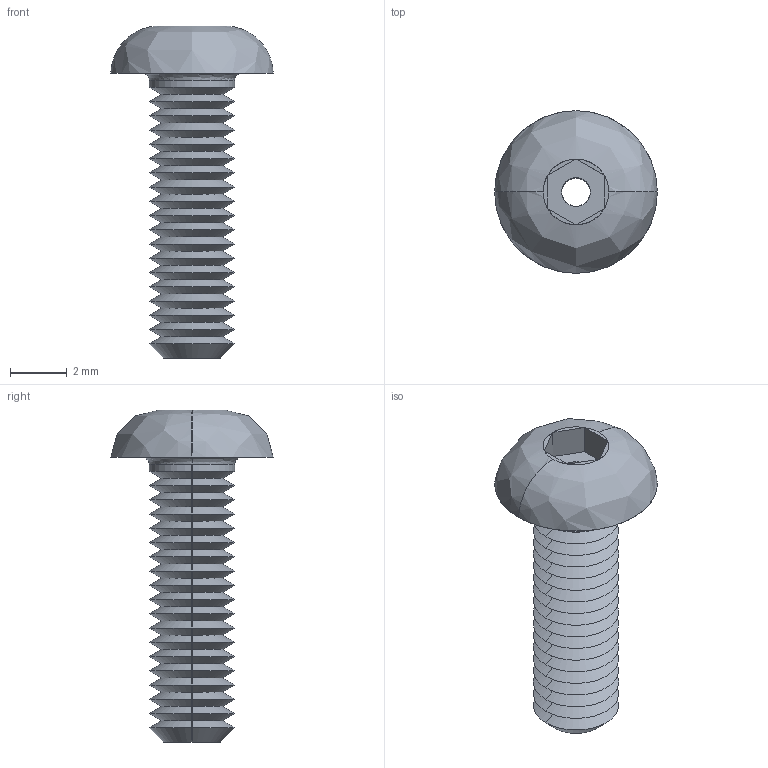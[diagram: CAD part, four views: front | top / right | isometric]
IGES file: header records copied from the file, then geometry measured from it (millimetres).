
Start section: SolidWorks IGES file using analytic representation for surfaces
Global section: file name: C:\Users\liam_\OneDrive\Documents\WORK\Work for WixRoyd\Job Files\J-00019 - Matt Davis CAD Checking\04. CAD Drawings\automotion20190605\P0094_v2\P0094_v2_20190712_IGES\P0094.030-010-A2.igs; native system: SolidWorks 2017; preprocessor: SolidWorks 2017; author: liam_; date: 190712.175139; units: millimetre
Bounding box: 5.7 x 5.7 x 11.65 mm (x, y, z)
Surface area: 255.7 mm2 (no closed solid volume)
Topology: 0 solids, 0 shells, 97 faces, 546 edges, 546 vertices
Faces by surface type: revolution 78, bspline 19
